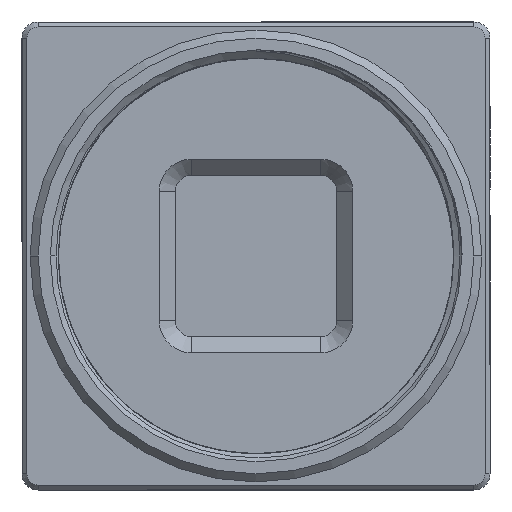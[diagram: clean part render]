
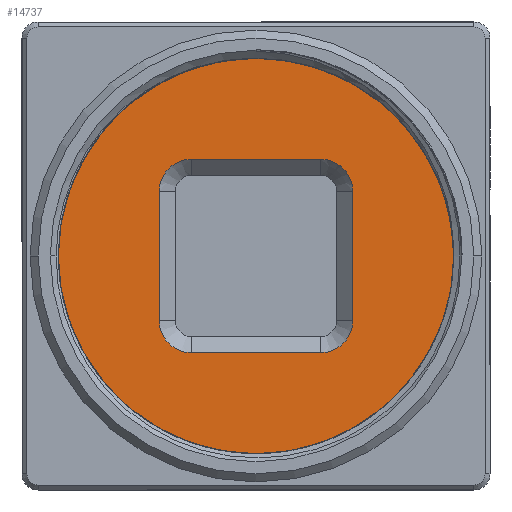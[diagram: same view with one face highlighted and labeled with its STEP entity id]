
A CAD part, front view. The second image highlights one B-rep face of the part: STEP entity #14737.
In plain terms, the highlighted planar face has unit normal (0, -1, 0).
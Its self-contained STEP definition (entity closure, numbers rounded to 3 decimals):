
#569 = CARTESIAN_POINT ( 'NONE',  ( -4., -5.6, 4. ) ) ;
#1642 = AXIS2_PLACEMENT_3D ( 'NONE', #20552, #35653, #38582 ) ;
#1841 = EDGE_CURVE ( 'NONE', #31451, #27153, #24033, .T. ) ;
#2062 = ORIENTED_EDGE ( 'NONE', *, *, #7165, .T. ) ;
#2186 = VERTEX_POINT ( 'NONE', #40510 ) ;
#2972 = EDGE_CURVE ( 'NONE', #42207, #21079, #30832, .T. ) ;
#3440 = EDGE_CURVE ( 'NONE', #38495, #15769, #17582, .T. ) ;
#3663 = CIRCLE ( 'NONE', #35881, 12.25 ) ;
#4296 = VERTEX_POINT ( 'NONE', #34662 ) ;
#7165 = EDGE_CURVE ( 'NONE', #4296, #2186, #21947, .T. ) ;
#9987 = VERTEX_POINT ( 'NONE', #13196 ) ;
#10897 = EDGE_CURVE ( 'NONE', #9987, #4296, #44729, .T. ) ;
#11465 = AXIS2_PLACEMENT_3D ( 'NONE', #569, #31908, #28786 ) ;
#11765 = CARTESIAN_POINT ( 'NONE',  ( 4., -5.6, 6. ) ) ;
#12118 = PLANE ( 'NONE',  #46113 ) ;
#12527 = ORIENTED_EDGE ( 'NONE', *, *, #10897, .T. ) ;
#12752 = VECTOR ( 'NONE', #31689, 1000. ) ;
#12771 = ORIENTED_EDGE ( 'NONE', *, *, #3440, .T. ) ;
#13196 = CARTESIAN_POINT ( 'NONE',  ( -4., -5.6, 6. ) ) ;
#13439 = CARTESIAN_POINT ( 'NONE',  ( -4., -5.6, -4. ) ) ;
#14737 = ADVANCED_FACE ( 'NONE', ( #19349, #45070 ), #12118, .T. ) ;
#15769 = VERTEX_POINT ( 'NONE', #36539 ) ;
#15803 = AXIS2_PLACEMENT_3D ( 'NONE', #13439, #42799, #28824 ) ;
#16077 = VECTOR ( 'NONE', #39929, 1000. ) ;
#16755 = ORIENTED_EDGE ( 'NONE', *, *, #2972, .T. ) ;
#16918 = DIRECTION ( 'NONE',  ( -1., 0., 0. ) ) ;
#17582 = LINE ( 'NONE', #25540, #16077 ) ;
#18208 = CARTESIAN_POINT ( 'NONE',  ( 4., -5.6, -6. ) ) ;
#19279 = DIRECTION ( 'NONE',  ( -1., 0., 0. ) ) ;
#19349 = FACE_BOUND ( 'NONE', #43638, .T. ) ;
#19382 = CARTESIAN_POINT ( 'NONE',  ( -4., -5.6, -6. ) ) ;
#20552 = CARTESIAN_POINT ( 'NONE',  ( 4., -5.6, -4. ) ) ;
#21079 = VERTEX_POINT ( 'NONE', #23394 ) ;
#21947 = CIRCLE ( 'NONE', #44146, 2. ) ;
#22217 = CIRCLE ( 'NONE', #11465, 2. ) ;
#23205 = DIRECTION ( 'NONE',  ( -1., 0., 0. ) ) ;
#23394 = CARTESIAN_POINT ( 'NONE',  ( 12.25, -5.6, 0. ) ) ;
#24033 = LINE ( 'NONE', #31218, #12752 ) ;
#25207 = CARTESIAN_POINT ( 'NONE',  ( 6., -5.6, -4. ) ) ;
#25230 = VECTOR ( 'NONE', #26471, 1000. ) ;
#25540 = CARTESIAN_POINT ( 'NONE',  ( -6., -5.6, 4. ) ) ;
#26002 = EDGE_CURVE ( 'NONE', #31025, #31451, #43783, .T. ) ;
#26471 = DIRECTION ( 'NONE',  ( 1., 0., 0. ) ) ;
#26744 = CARTESIAN_POINT ( 'NONE',  ( 4., -5.6, 4. ) ) ;
#27153 = VERTEX_POINT ( 'NONE', #19382 ) ;
#28786 = DIRECTION ( 'NONE',  ( -1., 0., 0. ) ) ;
#28824 = DIRECTION ( 'NONE',  ( -1., 0., 0. ) ) ;
#29556 = CARTESIAN_POINT ( 'NONE',  ( 6., -5.6, -4. ) ) ;
#29691 = EDGE_LOOP ( 'NONE', ( #16755, #30951 ) ) ;
#30832 = CIRCLE ( 'NONE', #36966, 12.25 ) ;
#30837 = EDGE_CURVE ( 'NONE', #21079, #42207, #3663, .T. ) ;
#30878 = CARTESIAN_POINT ( 'NONE',  ( 0., -5.6, 0. ) ) ;
#30885 = ORIENTED_EDGE ( 'NONE', *, *, #32209, .T. ) ;
#30951 = ORIENTED_EDGE ( 'NONE', *, *, #30837, .T. ) ;
#31023 = DIRECTION ( 'NONE',  ( -1., 0., 0. ) ) ;
#31025 = VERTEX_POINT ( 'NONE', #29556 ) ;
#31218 = CARTESIAN_POINT ( 'NONE',  ( -4., -5.6, -6. ) ) ;
#31451 = VERTEX_POINT ( 'NONE', #18208 ) ;
#31689 = DIRECTION ( 'NONE',  ( -1., 0., 0. ) ) ;
#31908 = DIRECTION ( 'NONE',  ( 0., 1., 0. ) ) ;
#32209 = EDGE_CURVE ( 'NONE', #15769, #9987, #22217, .T. ) ;
#32673 = CIRCLE ( 'NONE', #15803, 2. ) ;
#33032 = EDGE_CURVE ( 'NONE', #2186, #31025, #47523, .T. ) ;
#33927 = ORIENTED_EDGE ( 'NONE', *, *, #33032, .T. ) ;
#34662 = CARTESIAN_POINT ( 'NONE',  ( 4., -5.6, 6. ) ) ;
#35166 = DIRECTION ( 'NONE',  ( 0., -1., 0. ) ) ;
#35546 = CARTESIAN_POINT ( 'NONE',  ( -12.25, -5.6, 0. ) ) ;
#35653 = DIRECTION ( 'NONE',  ( 0., 1., 0. ) ) ;
#35881 = AXIS2_PLACEMENT_3D ( 'NONE', #37280, #44754, #19279 ) ;
#36213 = DIRECTION ( 'NONE',  ( 0., 0., -1. ) ) ;
#36539 = CARTESIAN_POINT ( 'NONE',  ( -6., -5.6, 4. ) ) ;
#36966 = AXIS2_PLACEMENT_3D ( 'NONE', #46266, #35166, #16918 ) ;
#37280 = CARTESIAN_POINT ( 'NONE',  ( 0., -5.6, 0. ) ) ;
#38495 = VERTEX_POINT ( 'NONE', #47215 ) ;
#38582 = DIRECTION ( 'NONE',  ( -1., 0., 0. ) ) ;
#39817 = ORIENTED_EDGE ( 'NONE', *, *, #26002, .T. ) ;
#39885 = VECTOR ( 'NONE', #36213, 1000. ) ;
#39929 = DIRECTION ( 'NONE',  ( 0., 0., 1. ) ) ;
#39969 = ORIENTED_EDGE ( 'NONE', *, *, #43903, .T. ) ;
#40510 = CARTESIAN_POINT ( 'NONE',  ( 6., -5.6, 4. ) ) ;
#41471 = DIRECTION ( 'NONE',  ( 0., -1., 0. ) ) ;
#42207 = VERTEX_POINT ( 'NONE', #35546 ) ;
#42799 = DIRECTION ( 'NONE',  ( 0., 1., 0. ) ) ;
#43638 = EDGE_LOOP ( 'NONE', ( #39969, #12771, #30885, #12527, #2062, #33927, #39817, #43779 ) ) ;
#43779 = ORIENTED_EDGE ( 'NONE', *, *, #1841, .T. ) ;
#43783 = CIRCLE ( 'NONE', #1642, 2. ) ;
#43903 = EDGE_CURVE ( 'NONE', #27153, #38495, #32673, .T. ) ;
#44146 = AXIS2_PLACEMENT_3D ( 'NONE', #26744, #45233, #31023 ) ;
#44729 = LINE ( 'NONE', #11765, #25230 ) ;
#44754 = DIRECTION ( 'NONE',  ( 0., -1., 0. ) ) ;
#45070 = FACE_OUTER_BOUND ( 'NONE', #29691, .T. ) ;
#45233 = DIRECTION ( 'NONE',  ( 0., 1., 0. ) ) ;
#46113 = AXIS2_PLACEMENT_3D ( 'NONE', #30878, #41471, #23205 ) ;
#46266 = CARTESIAN_POINT ( 'NONE',  ( 0., -5.6, 0. ) ) ;
#47215 = CARTESIAN_POINT ( 'NONE',  ( -6., -5.6, -4. ) ) ;
#47523 = LINE ( 'NONE', #25207, #39885 ) ;
